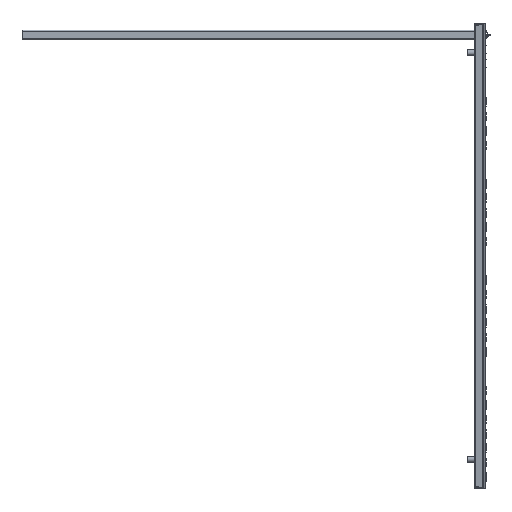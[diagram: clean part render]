
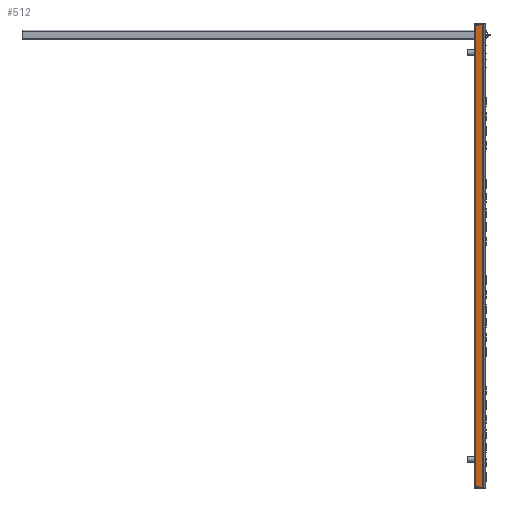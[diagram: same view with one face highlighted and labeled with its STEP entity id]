
A CAD part, left-side view. The second image highlights one B-rep face of the part: STEP entity #512.
In plain terms, the highlighted planar face has unit normal (-0.988, 0.157, 0) as drawn and (0, 0, -1) by its records, which use the part's own axes.
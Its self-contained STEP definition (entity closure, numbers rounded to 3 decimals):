
#512 = ADVANCED_FACE( '', ( #1200 ), #1201, .T. );
#1200 = FACE_OUTER_BOUND( '', #2146, .T. );
#1201 = PLANE( '', #2147 );
#2146 = EDGE_LOOP( '', ( #3587, #3588, #3589, #3590 ) );
#2147 = AXIS2_PLACEMENT_3D( '', #3591, #3592, #3593 );
#3587 = ORIENTED_EDGE( '', *, *, #5469, .F. );
#3588 = ORIENTED_EDGE( '', *, *, #5842, .T. );
#3589 = ORIENTED_EDGE( '', *, *, #5843, .T. );
#3590 = ORIENTED_EDGE( '', *, *, #5844, .T. );
#3591 = CARTESIAN_POINT( '', ( -15., 1446., -15. ) );
#3592 = DIRECTION( '', ( 0., 0., -1. ) );
#3593 = DIRECTION( '', ( -1., 0., 0. ) );
#5469 = EDGE_CURVE( '', #6548, #6550, #6551, .T. );
#5842 = EDGE_CURVE( '', #6548, #7180, #7181, .F. );
#5843 = EDGE_CURVE( '', #7180, #7182, #7183, .T. );
#5844 = EDGE_CURVE( '', #7182, #6550, #7184, .T. );
#6548 = VERTEX_POINT( '', #8112 );
#6550 = VERTEX_POINT( '', #8114 );
#6551 = LINE( '', #8115, #8116 );
#7180 = VERTEX_POINT( '', #8951 );
#7181 = LINE( '', #8952, #8953 );
#7182 = VERTEX_POINT( '', #8954 );
#7183 = LINE( '', #8955, #8956 );
#7184 = LINE( '', #8957, #8958 );
#8112 = CARTESIAN_POINT( '', ( -12., 0., -15. ) );
#8114 = CARTESIAN_POINT( '', ( 12., 0., -15. ) );
#8115 = CARTESIAN_POINT( '', ( -15., 0., -15. ) );
#8116 = VECTOR( '', #10078, 1000. );
#8951 = CARTESIAN_POINT( '', ( -12., 1446., -15. ) );
#8952 = CARTESIAN_POINT( '', ( -12., 1446., -15. ) );
#8953 = VECTOR( '', #10537, 1000. );
#8954 = CARTESIAN_POINT( '', ( 12., 1446., -15. ) );
#8955 = CARTESIAN_POINT( '', ( -15., 1446., -15. ) );
#8956 = VECTOR( '', #10538, 1000. );
#8957 = CARTESIAN_POINT( '', ( 12., 1446., -15. ) );
#8958 = VECTOR( '', #10539, 1000. );
#10078 = DIRECTION( '', ( 1., 0., 0. ) );
#10537 = DIRECTION( '', ( 0., -1., 0. ) );
#10538 = DIRECTION( '', ( 1., 0., 0. ) );
#10539 = DIRECTION( '', ( 0., -1., 0. ) );
